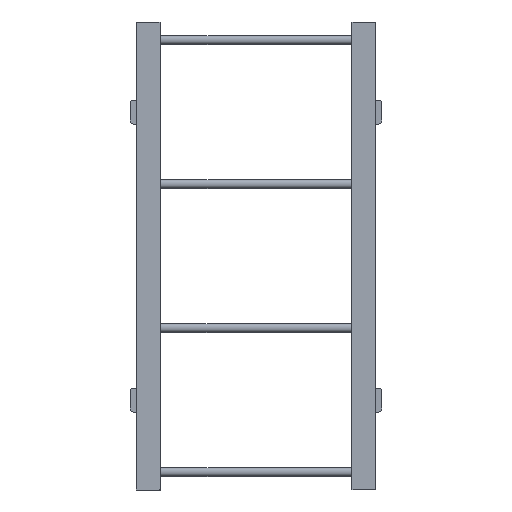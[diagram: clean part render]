
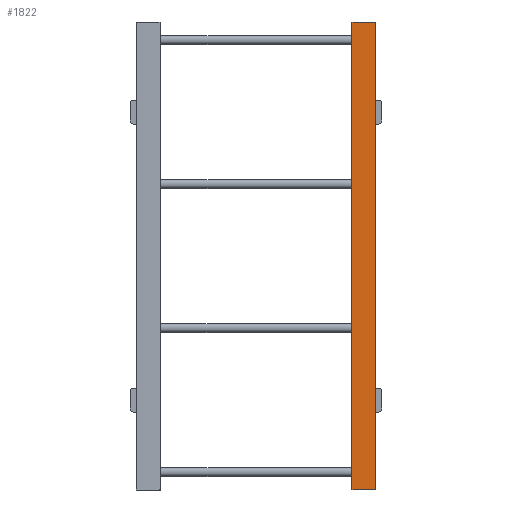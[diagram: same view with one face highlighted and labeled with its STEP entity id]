
A CAD part, left-side view. The second image highlights one B-rep face of the part: STEP entity #1822.
In plain terms, the highlighted planar face has unit normal (-1, 0, 0).
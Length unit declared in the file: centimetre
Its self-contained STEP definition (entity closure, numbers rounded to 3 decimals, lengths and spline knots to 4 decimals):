
#68=LINE('',#2800,#222);
#69=LINE('',#2802,#223);
#70=LINE('',#2804,#224);
#71=LINE('',#2805,#225);
#222=VECTOR('',#2277,5.08);
#223=VECTOR('',#2278,99.06);
#224=VECTOR('',#2279,5.08);
#225=VECTOR('',#2280,99.06);
#347=PLANE('',#1963);
#463=FACE_OUTER_BOUND('',#577,.T.);
#577=EDGE_LOOP('',(#1321,#1322,#1323,#1324));
#818=VERTEX_POINT('',#2798);
#819=VERTEX_POINT('',#2799);
#820=VERTEX_POINT('',#2801);
#821=VERTEX_POINT('',#2803);
#1011=EDGE_CURVE('',#818,#819,#68,.T.);
#1012=EDGE_CURVE('',#820,#819,#69,.T.);
#1013=EDGE_CURVE('',#821,#820,#70,.T.);
#1014=EDGE_CURVE('',#821,#818,#71,.T.);
#1321=ORIENTED_EDGE('',*,*,#1011,.T.);
#1322=ORIENTED_EDGE('',*,*,#1012,.F.);
#1323=ORIENTED_EDGE('',*,*,#1013,.F.);
#1324=ORIENTED_EDGE('',*,*,#1014,.T.);
#1822=ADVANCED_FACE('',(#463),#347,.T.);
#1963=AXIS2_PLACEMENT_3D('',#2797,#2275,#2276);
#2275=DIRECTION('center_axis',(-1.,0.,0.));
#2276=DIRECTION('ref_axis',(0.,0.,-1.));
#2277=DIRECTION('',(0.,-1.,0.));
#2278=DIRECTION('',(0.,0.,-1.));
#2279=DIRECTION('',(0.,-1.,0.));
#2280=DIRECTION('',(0.,0.,-1.));
#2797=CARTESIAN_POINT('Origin',(0.,-40.64,
99.06));
#2798=CARTESIAN_POINT('',(0.,-40.64,0.));
#2799=CARTESIAN_POINT('',(0.,-45.72,0.));
#2800=CARTESIAN_POINT('',(0.,-40.64,0.));
#2801=CARTESIAN_POINT('',(0.,-45.72,99.06));
#2802=CARTESIAN_POINT('',(0.,-45.72,99.06));
#2803=CARTESIAN_POINT('',(0.,-40.64,99.06));
#2804=CARTESIAN_POINT('',(0.,-40.64,99.06));
#2805=CARTESIAN_POINT('',(0.,-40.64,99.06));
